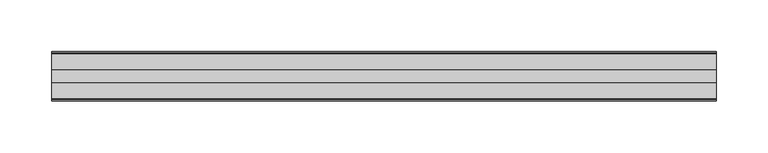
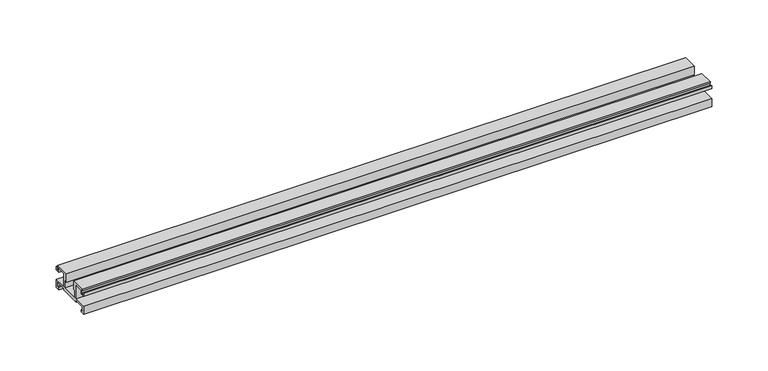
"""IFC4 building model written with IfcOpenShell, lengths in millimetres: proxy geometry, Weiku - Montante - Acoplamento vidro : Weiku - Montante - Acoplamento vidro."""

from ifc_helpers import new_model, si_unit, frame, origin, place, context, project, spatial, polyline, outline, extrude, source, transform, mapped, element, save


def generic_models_69a21f18(model_context):
    return source(origin(), model_context, "Body", "SweptSolid", [
        extrude(outline(polyline([(35.405, 5.1494), (12.495, 5.1494), (12.495, 6.8004), (2.159, 6.8004), (2.159, 2.6094), (4.0216, 2.6094), (4.0216, 0.0), (-0.0014508, 0.0), (-0.0014508, 8.79), (12.954, 8.79), (12.954, 23.3104), (4.3603, 23.3104), (4.3603, 19.204), (0.0, 19.204), (0.0, 22.8024), (0.9736, 22.8024), (0.9736, 20.3894), (3.175, 20.3894), (3.175, 23.9454), (2.3735496, 23.9454), (2.3735496, 25.3), (17.4836, 25.3), (17.4836, 16.283), (15.4516, 16.283), (15.4516, 8.8), (32.4484, 8.8), (32.4484, 16.283), (30.4164, 16.283), (30.4164, 25.3), (45.5264504, 25.3), (45.5264504, 23.9454), (44.725, 23.9454), (44.725, 20.3894), (46.9264, 20.3894), (46.9264, 22.8024), (47.9, 22.8024), (47.9, 19.204), (43.5397, 19.204), (43.5397, 23.3104), (34.946, 23.3104), (34.946, 8.79), (47.9014508, 8.79), (47.9014508, 0.0), (43.8784, 0.0), (43.8784, 2.6094), (45.741, 2.6094), (45.741, 6.8004), (35.405, 6.8004), (35.405, 5.1494)])), frame((-321.1, 0.0, 0.0), z_axis=(1.0, 0.0, 0.0), x_axis=(0.0, 1.0, 0.0)), (0.0, 0.0, 1.0), 642.2),
    ])


if __name__ == "__main__":
    model = new_model("IFC4")
    model_context = context("Model", 3, world=origin())
    ifc_project = project(units=[si_unit("LENGTHUNIT", "METRE", prefix="MILLI")], contexts=[model_context])
    site = spatial("IfcSite", under=ifc_project)
    building = spatial("IfcBuilding", under=site)
    placement = place(None, origin())
    generic_models_shape = generic_models_69a21f18(model_context)
    element("IfcBuildingElementProxy", 1, Name="Weiku - Montante - Acoplamento vidro : Weiku - Montante - Acoplamento vidro", ObjectType="Weiku - Montante - Acoplamento vidro : Weiku - Montante - Acoplamento vidro", at=placement, inside=building, context=model_context, shape_type="MappedRepresentation", body=[
        mapped(generic_models_shape, transform((0.0, 0.0, 0.0), x_axis=(1.0, 0.0, 0.0), y_axis=(0.0, 1.0, 0.0), z_axis=(0.0, 0.0, 1.0))),
    ])
    save(model, "model.ifc")
